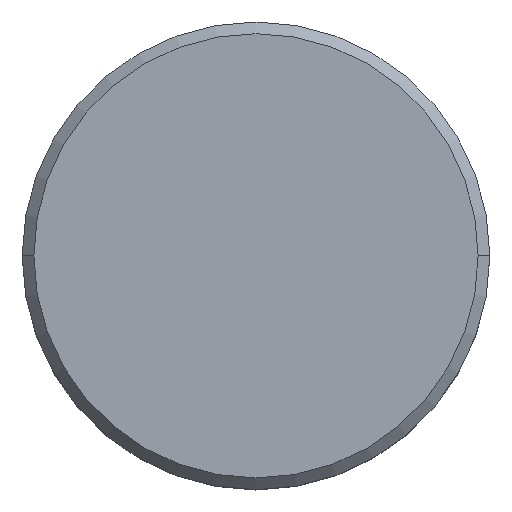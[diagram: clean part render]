
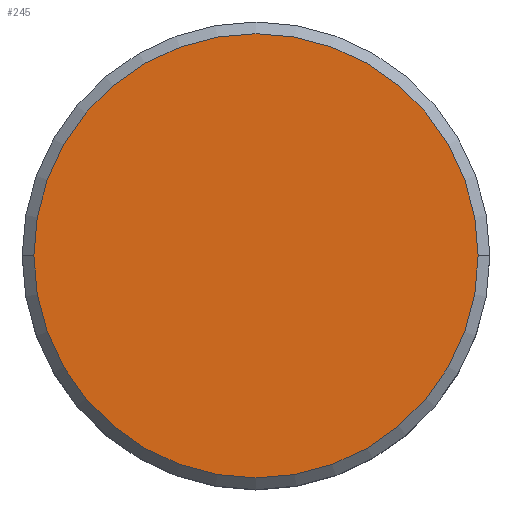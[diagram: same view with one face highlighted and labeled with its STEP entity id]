
A CAD part, top view. The second image highlights one B-rep face of the part: STEP entity #245.
In plain terms, the highlighted planar face has unit normal (0, 0, 1).
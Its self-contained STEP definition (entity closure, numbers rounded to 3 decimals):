
#12 = VERTEX_POINT ( 'NONE', #25 ) ;
#25 = CARTESIAN_POINT ( 'NONE',  ( 9.5, 0., 10. ) ) ;
#33 = AXIS2_PLACEMENT_3D ( 'NONE', #344, #181, #232 ) ;
#37 = CARTESIAN_POINT ( 'NONE',  ( -9.5, 0., 10. ) ) ;
#68 = DIRECTION ( 'NONE',  ( -1., 0., 0. ) ) ;
#74 = AXIS2_PLACEMENT_3D ( 'NONE', #208, #320, #68 ) ;
#98 = ORIENTED_EDGE ( 'NONE', *, *, #248, .T. ) ;
#100 = PLANE ( 'NONE',  #74 ) ;
#124 = DIRECTION ( 'NONE',  ( -1., 0., 0. ) ) ;
#129 = AXIS2_PLACEMENT_3D ( 'NONE', #195, #259, #124 ) ;
#155 = EDGE_LOOP ( 'NONE', ( #328, #98 ) ) ;
#181 = DIRECTION ( 'NONE',  ( 0., 0., 1. ) ) ;
#193 = EDGE_CURVE ( 'NONE', #337, #12, #198, .T. ) ;
#195 = CARTESIAN_POINT ( 'NONE',  ( 0., 0., 10. ) ) ;
#198 = CIRCLE ( 'NONE', #129, 9.5 ) ;
#208 = CARTESIAN_POINT ( 'NONE',  ( 10., 0., 10. ) ) ;
#232 = DIRECTION ( 'NONE',  ( -1., 0., 0. ) ) ;
#245 = ADVANCED_FACE ( 'NONE', ( #350 ), #100, .F. ) ;
#248 = EDGE_CURVE ( 'NONE', #12, #337, #286, .T. ) ;
#259 = DIRECTION ( 'NONE',  ( 0., 0., 1. ) ) ;
#286 = CIRCLE ( 'NONE', #33, 9.5 ) ;
#320 = DIRECTION ( 'NONE',  ( 0., 0., -1. ) ) ;
#328 = ORIENTED_EDGE ( 'NONE', *, *, #193, .T. ) ;
#337 = VERTEX_POINT ( 'NONE', #37 ) ;
#344 = CARTESIAN_POINT ( 'NONE',  ( 0., 0., 10. ) ) ;
#350 = FACE_OUTER_BOUND ( 'NONE', #155, .T. ) ;
